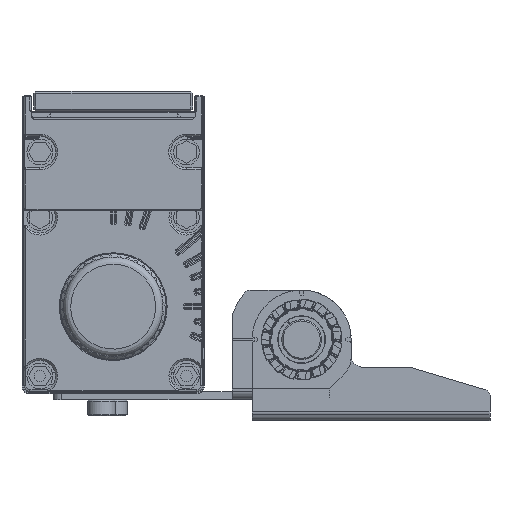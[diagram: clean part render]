
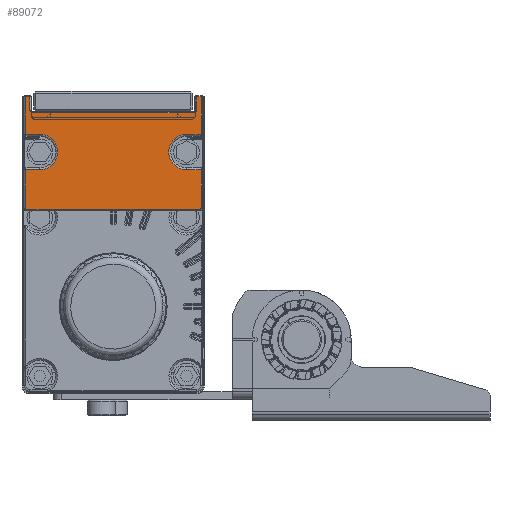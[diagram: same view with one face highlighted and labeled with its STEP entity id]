
A CAD part, front view. The second image highlights one B-rep face of the part: STEP entity #89072.
In plain terms, the highlighted planar face has unit normal (0, -1, 0).
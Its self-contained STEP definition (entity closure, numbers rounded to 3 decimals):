
#1310=ELLIPSE('',#95817,0.2,0.2);
#1311=ELLIPSE('',#95830,0.2,0.2);
#1312=ELLIPSE('',#95837,0.2,0.2);
#1313=ELLIPSE('',#95844,0.2,0.2);
#7671=CIRCLE('',#95814,4.491);
#7675=CIRCLE('',#95822,0.2);
#7677=CIRCLE('',#95826,0.2);
#7682=CIRCLE('',#95835,4.491);
#7729=CIRCLE('',#95942,0.6);
#7730=CIRCLE('',#95943,0.6);
#26135=ORIENTED_EDGE('',*,*,#35752,.T.);
#26136=ORIENTED_EDGE('',*,*,#35751,.T.);
#26137=ORIENTED_EDGE('',*,*,#35749,.T.);
#26138=ORIENTED_EDGE('',*,*,#35748,.T.);
#26139=ORIENTED_EDGE('',*,*,#35841,.T.);
#26140=ORIENTED_EDGE('',*,*,#35855,.T.);
#26141=ORIENTED_EDGE('',*,*,#35856,.T.);
#26142=ORIENTED_EDGE('',*,*,#35857,.T.);
#26143=ORIENTED_EDGE('',*,*,#35842,.T.);
#26144=ORIENTED_EDGE('',*,*,#35746,.T.);
#26145=ORIENTED_EDGE('',*,*,#35745,.T.);
#26146=ORIENTED_EDGE('',*,*,#35743,.T.);
#26147=ORIENTED_EDGE('',*,*,#35742,.T.);
#26148=ORIENTED_EDGE('',*,*,#35741,.T.);
#26149=ORIENTED_EDGE('',*,*,#35739,.T.);
#26150=ORIENTED_EDGE('',*,*,#35737,.T.);
#26151=ORIENTED_EDGE('',*,*,#35735,.T.);
#26152=ORIENTED_EDGE('',*,*,#35733,.T.);
#26153=ORIENTED_EDGE('',*,*,#35731,.T.);
#26154=ORIENTED_EDGE('',*,*,#35730,.T.);
#26155=ORIENTED_EDGE('',*,*,#35727,.T.);
#26156=ORIENTED_EDGE('',*,*,#35726,.T.);
#26157=ORIENTED_EDGE('',*,*,#35724,.T.);
#26158=ORIENTED_EDGE('',*,*,#35723,.T.);
#35723=EDGE_CURVE('',#41573,#41574,#7671,.F.);
#35724=EDGE_CURVE('',#41478,#41573,#45775,.F.);
#35726=EDGE_CURVE('',#41575,#41478,#1310,.T.);
#35727=EDGE_CURVE('',#41576,#41575,#45776,.T.);
#35730=EDGE_CURVE('',#41577,#41576,#7675,.T.);
#35731=EDGE_CURVE('',#41578,#41577,#45777,.T.);
#35733=EDGE_CURVE('',#41579,#41578,#7677,.T.);
#35735=EDGE_CURVE('',#41580,#41579,#45778,.T.);
#35737=EDGE_CURVE('',#41488,#41580,#1311,.T.);
#35739=EDGE_CURVE('',#41581,#41488,#45779,.F.);
#35741=EDGE_CURVE('',#41582,#41581,#7682,.F.);
#35742=EDGE_CURVE('',#41494,#41582,#45780,.F.);
#35743=EDGE_CURVE('',#41583,#41494,#1312,.T.);
#35745=EDGE_CURVE('',#41495,#41583,#45781,.T.);
#35746=EDGE_CURVE('',#41558,#41495,#45782,.T.);
#35748=EDGE_CURVE('',#41502,#41553,#45784,.T.);
#35749=EDGE_CURVE('',#41584,#41502,#45785,.T.);
#35751=EDGE_CURVE('',#41499,#41584,#1313,.T.);
#35752=EDGE_CURVE('',#41574,#41499,#45786,.F.);
#35841=EDGE_CURVE('',#41553,#41627,#45831,.T.);
#35842=EDGE_CURVE('',#41628,#41558,#45832,.T.);
#35855=EDGE_CURVE('',#41627,#41635,#7729,.F.);
#35856=EDGE_CURVE('',#41635,#41636,#45841,.T.);
#35857=EDGE_CURVE('',#41636,#41628,#7730,.F.);
#41478=VERTEX_POINT('',#307377);
#41488=VERTEX_POINT('',#307427);
#41494=VERTEX_POINT('',#307466);
#41495=VERTEX_POINT('',#307473);
#41499=VERTEX_POINT('',#307502);
#41502=VERTEX_POINT('',#307518);
#41553=VERTEX_POINT('',#307774);
#41558=VERTEX_POINT('',#307784);
#41573=VERTEX_POINT('',#307842);
#41574=VERTEX_POINT('',#307844);
#41575=VERTEX_POINT('',#307861);
#41576=VERTEX_POINT('',#307865);
#41577=VERTEX_POINT('',#307869);
#41578=VERTEX_POINT('',#307873);
#41579=VERTEX_POINT('',#307877);
#41580=VERTEX_POINT('',#307881);
#41581=VERTEX_POINT('',#307898);
#41582=VERTEX_POINT('',#307902);
#41583=VERTEX_POINT('',#307919);
#41584=VERTEX_POINT('',#307930);
#41627=VERTEX_POINT('',#308166);
#41628=VERTEX_POINT('',#308170);
#41635=VERTEX_POINT('',#308196);
#41636=VERTEX_POINT('',#308198);
#45775=LINE('',#307847,#49985);
#45776=LINE('',#307864,#49986);
#45777=LINE('',#307872,#49987);
#45778=LINE('',#307880,#49988);
#45779=LINE('',#307899,#49989);
#45780=LINE('',#307905,#49990);
#45781=LINE('',#307922,#49991);
#45782=LINE('',#307924,#49992);
#45784=LINE('',#307927,#49994);
#45785=LINE('',#307929,#49995);
#45786=LINE('',#307946,#49996);
#45831=LINE('',#308167,#50041);
#45832=LINE('',#308169,#50042);
#45841=LINE('',#308197,#50051);
#49985=VECTOR('',#113453,1000.);
#49986=VECTOR('',#113460,1000.);
#49987=VECTOR('',#113471,1000.);
#49988=VECTOR('',#113482,1000.);
#49989=VECTOR('',#113491,1000.);
#49990=VECTOR('',#113500,1000.);
#49991=VECTOR('',#113507,1000.);
#49992=VECTOR('',#113510,1000.);
#49994=VECTOR('',#113514,1000.);
#49995=VECTOR('',#113517,1000.);
#49996=VECTOR('',#113524,1000.);
#50041=VECTOR('',#113739,1000.);
#50042=VECTOR('',#113742,1000.);
#50051=VECTOR('',#113773,1000.);
#54037=EDGE_LOOP('',(#26135,#26136,#26137,#26138,#26139,#26140,#26141,#26142,
#26143,#26144,#26145,#26146,#26147,#26148,#26149,#26150,#26151,#26152,#26153,
#26154,#26155,#26156,#26157,#26158));
#58013=FACE_BOUND('',#54037,.T.);
#59220=PLANE('',#95941);
#89072=ADVANCED_FACE('',(#58013),#59220,.T.);
#95814=AXIS2_PLACEMENT_3D('',#307845,#113449,#113450);
#95817=AXIS2_PLACEMENT_3D('',#307862,#113456,#113457);
#95822=AXIS2_PLACEMENT_3D('',#307870,#113467,#113468);
#95826=AXIS2_PLACEMENT_3D('',#307876,#113476,#113477);
#95830=AXIS2_PLACEMENT_3D('',#307895,#113485,#113486);
#95835=AXIS2_PLACEMENT_3D('',#307903,#113496,#113497);
#95837=AXIS2_PLACEMENT_3D('',#307918,#113501,#113502);
#95844=AXIS2_PLACEMENT_3D('',#307944,#113520,#113521);
#95941=AXIS2_PLACEMENT_3D('',#308194,#113769,#113770);
#95942=AXIS2_PLACEMENT_3D('',#308195,#113771,#113772);
#95943=AXIS2_PLACEMENT_3D('',#308199,#113774,#113775);
#113449=DIRECTION('',(0.,-1.,0.));
#113450=DIRECTION('',(0.,0.,-1.));
#113453=DIRECTION('',(1.,0.,0.));
#113456=DIRECTION('',(0.,-1.,0.));
#113457=DIRECTION('',(0.,0.,1.));
#113460=DIRECTION('',(0.,0.,1.));
#113467=DIRECTION('',(0.,-1.,0.));
#113468=DIRECTION('',(0.,0.,-1.));
#113471=DIRECTION('',(1.,0.,0.));
#113476=DIRECTION('',(0.,-1.,0.));
#113477=DIRECTION('',(0.,0.,-1.));
#113482=DIRECTION('',(0.,0.,-1.));
#113485=DIRECTION('',(0.,-1.,0.));
#113486=DIRECTION('',(0.,0.,1.));
#113491=DIRECTION('',(1.,0.,0.));
#113496=DIRECTION('',(0.,-1.,0.));
#113497=DIRECTION('',(0.,0.,-1.));
#113500=DIRECTION('',(-1.,0.,0.));
#113501=DIRECTION('',(0.,-1.,0.));
#113502=DIRECTION('',(0.,0.,1.));
#113507=DIRECTION('',(0.,0.,-1.));
#113510=DIRECTION('',(-1.,0.,0.));
#113514=DIRECTION('',(-1.,0.,0.));
#113517=DIRECTION('',(0.,0.,1.));
#113520=DIRECTION('',(0.,-1.,0.));
#113521=DIRECTION('',(0.,0.,1.));
#113524=DIRECTION('',(-1.,0.,0.));
#113739=DIRECTION('',(0.,0.,-1.));
#113742=DIRECTION('',(0.,0.,1.));
#113769=DIRECTION('',(0.,-1.,0.));
#113770=DIRECTION('',(0.,0.,-1.));
#113771=DIRECTION('',(0.,-1.,0.));
#113772=DIRECTION('',(0.,0.,-1.));
#113773=DIRECTION('',(-1.,0.,0.));
#113774=DIRECTION('',(0.,-1.,0.));
#113775=DIRECTION('',(0.,0.,-1.));
#307377=CARTESIAN_POINT('',(22.2,-610.,-20.091));
#307427=CARTESIAN_POINT('',(-22.2,-610.,-20.091));
#307466=CARTESIAN_POINT('',(-22.2,-610.,-11.109));
#307473=CARTESIAN_POINT('',(-22.2,-610.,-1.7));
#307502=CARTESIAN_POINT('',(22.2,-610.,-11.109));
#307518=CARTESIAN_POINT('',(22.2,-610.,-1.7));
#307774=CARTESIAN_POINT('',(21.,-610.,-1.7));
#307784=CARTESIAN_POINT('',(-21.,-610.,-1.7));
#307842=CARTESIAN_POINT('',(18.5,-610.,-20.091));
#307844=CARTESIAN_POINT('',(18.5,-610.,-11.109));
#307845=CARTESIAN_POINT('',(18.5,-610.,-15.6));
#307847=CARTESIAN_POINT('',(-2.5,-610.,-20.091));
#307861=CARTESIAN_POINT('',(22.2,-610.,-20.095));
#307862=CARTESIAN_POINT('',(22.,-610.,-20.095));
#307864=CARTESIAN_POINT('',(22.2,-610.,5.9));
#307865=CARTESIAN_POINT('',(22.2,-610.,-29.8));
#307869=CARTESIAN_POINT('',(22.,-610.,-30.));
#307870=CARTESIAN_POINT('',(22.,-610.,-29.8));
#307872=CARTESIAN_POINT('',(-2.5,-610.,-30.));
#307873=CARTESIAN_POINT('',(-22.,-610.,-30.));
#307876=CARTESIAN_POINT('',(-22.,-610.,-29.8));
#307877=CARTESIAN_POINT('',(-22.2,-610.,-29.8));
#307880=CARTESIAN_POINT('',(-22.2,-610.,5.9));
#307881=CARTESIAN_POINT('',(-22.2,-610.,-20.095));
#307895=CARTESIAN_POINT('',(-22.,-610.,-20.095));
#307898=CARTESIAN_POINT('',(-18.5,-610.,-20.091));
#307899=CARTESIAN_POINT('',(-22.2,-610.,-20.091));
#307902=CARTESIAN_POINT('',(-18.5,-610.,-11.109));
#307903=CARTESIAN_POINT('',(-18.5,-610.,-15.6));
#307905=CARTESIAN_POINT('',(-18.5,-610.,-11.109));
#307918=CARTESIAN_POINT('',(-22.,-610.,-11.105));
#307919=CARTESIAN_POINT('',(-22.2,-610.,-11.105));
#307922=CARTESIAN_POINT('',(-22.2,-610.,5.9));
#307924=CARTESIAN_POINT('',(-2.5,-610.,-1.7));
#307927=CARTESIAN_POINT('',(-2.5,-610.,-1.7));
#307929=CARTESIAN_POINT('',(22.2,-610.,5.9));
#307930=CARTESIAN_POINT('',(22.2,-610.,-11.105));
#307944=CARTESIAN_POINT('',(22.,-610.,-11.105));
#307946=CARTESIAN_POINT('',(-2.5,-610.,-11.109));
#308166=CARTESIAN_POINT('',(21.,-610.,-5.1));
#308167=CARTESIAN_POINT('',(21.,-610.,5.9));
#308169=CARTESIAN_POINT('',(-21.,-610.,5.9));
#308170=CARTESIAN_POINT('',(-21.,-610.,-5.1));
#308194=CARTESIAN_POINT('',(-2.5,-610.,5.9));
#308195=CARTESIAN_POINT('',(20.4,-610.,-5.1));
#308196=CARTESIAN_POINT('',(20.4,-610.,-5.7));
#308197=CARTESIAN_POINT('',(-2.5,-610.,-5.7));
#308198=CARTESIAN_POINT('',(-20.4,-610.,-5.7));
#308199=CARTESIAN_POINT('',(-20.4,-610.,-5.1));
